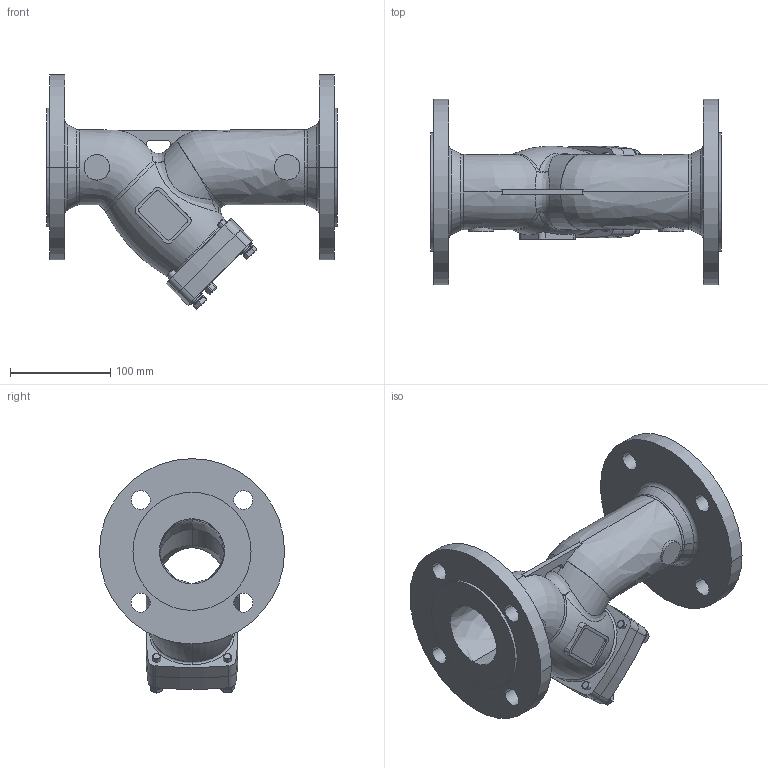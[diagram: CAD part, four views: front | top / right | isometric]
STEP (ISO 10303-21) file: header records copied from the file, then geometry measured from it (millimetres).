
FILE_DESCRIPTION(('Open CASCADE Model'),'2;1');
FILE_NAME('Open CASCADE Shape Model','2023-03-02T07:20:32',('Author'),( 'Open CASCADE'),'Open CASCADE STEP processor 7.3','Open CASCADE 7.3' ,'Unknown');
FILE_SCHEMA(('AUTOMOTIVE_DESIGN { 1 0 10303 214 1 1 1 1 }'));
Length unit declared in the file: millimetre
Products named in the file (16): Open CASCADE STEP translator 7.3 1; Open CASCADE STEP translator 7.3 1.1; Open CASCADE STEP translator 7.3 1.2; Open CASCADE STEP translator 7.3 1.3; Open CASCADE STEP translator 7.3 1.4; Open CASCADE STEP translator 7.3 1.5; Open CASCADE STEP translator 7.3 1.6; Open CASCADE STEP translator 7.3 1.7; Open CASCADE STEP translator 7.3 1.8; Open CASCADE STEP translator 7.3 1.9; Open CASCADE STEP translator 7.3 1.10; Open CASCADE STEP translator 7.3 1.11; Open CASCADE STEP translator 7.3 1.12; Open CASCADE STEP translator 7.3 1.13; Open CASCADE STEP translator 7.3 1.14; Open CASCADE STEP translator 7.3 1.15
Assembly tree (15 placements, depth 2):
  Open CASCADE STEP translator 7.3 1
    Open CASCADE STEP translator 7.3 1.1
    Open CASCADE STEP translator 7.3 1.2
    Open CASCADE STEP translator 7.3 1.3
    Open CASCADE STEP translator 7.3 1.4
    Open CASCADE STEP translator 7.3 1.5
    Open CASCADE STEP translator 7.3 1.6
    Open CASCADE STEP translator 7.3 1.7
    Open CASCADE STEP translator 7.3 1.8
    Open CASCADE STEP translator 7.3 1.9
    Open CASCADE STEP translator 7.3 1.10
    Open CASCADE STEP translator 7.3 1.11
    Open CASCADE STEP translator 7.3 1.12
    Open CASCADE STEP translator 7.3 1.13
    Open CASCADE STEP translator 7.3 1.14
    Open CASCADE STEP translator 7.3 1.15
Bounding box: 290 x 185 x 234.27 mm (x, y, z)
Volume: 1296771.9 mm3; surface area: 308383 mm2
Topology: 15 solids, 15 shells, 364 faces, 889 edges, 559 vertices
Faces by surface type: cylinder 137, plane 122, cone 50, bspline 31, torus 14, sphere 6, revolution 4
Entity records: 41498 total; most frequent: CARTESIAN_POINT 24363, DIRECTION 2970, ORIENTED_EDGE 1762, PCURVE 1762, DEFINITIONAL_REPRESENTATION 1762, LINE 1233, VECTOR 1233, EDGE_CURVE 881
